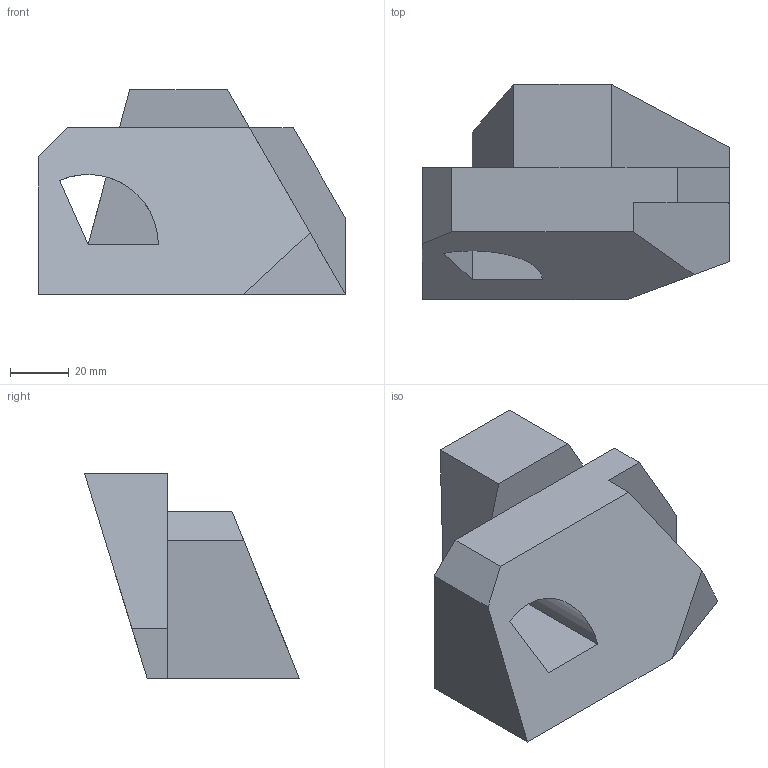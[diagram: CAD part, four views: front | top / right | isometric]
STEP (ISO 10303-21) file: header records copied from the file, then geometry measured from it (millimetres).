
FILE_DESCRIPTION(/* description */ (''),/* implementation_level */ '2;1');
FILE_NAME(/* name */ 'C:\Users\PC-1-15\Desktop\730207R1007\730207R1007.stp',/* time_stamp */ '2023-02-18T10:49:33+09:00',/* author */ ('PC-1-15'),/* organization */ (''),/* preprocessor_version */ 'ST-DEVELOPER v16.1',/* originating_system */ 'Autodesk Inventor 2016',/* authorisation */ '');
FILE_SCHEMA (('AUTOMOTIVE_DESIGN { 1 0 10303 214 3 1 1 }'));
Length unit declared in the file: millimetre
Products named in the file (1): 730207R1007-1
Bounding box: 105 x 73.4 x 70 mm (x, y, z)
Volume: 224918.4 mm3; surface area: 30119.9 mm2
Topology: 1 solids, 1 shells, 23 faces, 57 edges, 35 vertices
Faces by surface type: plane 22, cylinder 1
Entity records: 692 total; most frequent: ORIENTED_EDGE 116, CARTESIAN_POINT 116, DIRECTION 108, EDGE_CURVE 57, LINE 54, VECTOR 54, VERTEX_POINT 35, AXIS2_PLACEMENT_3D 27
